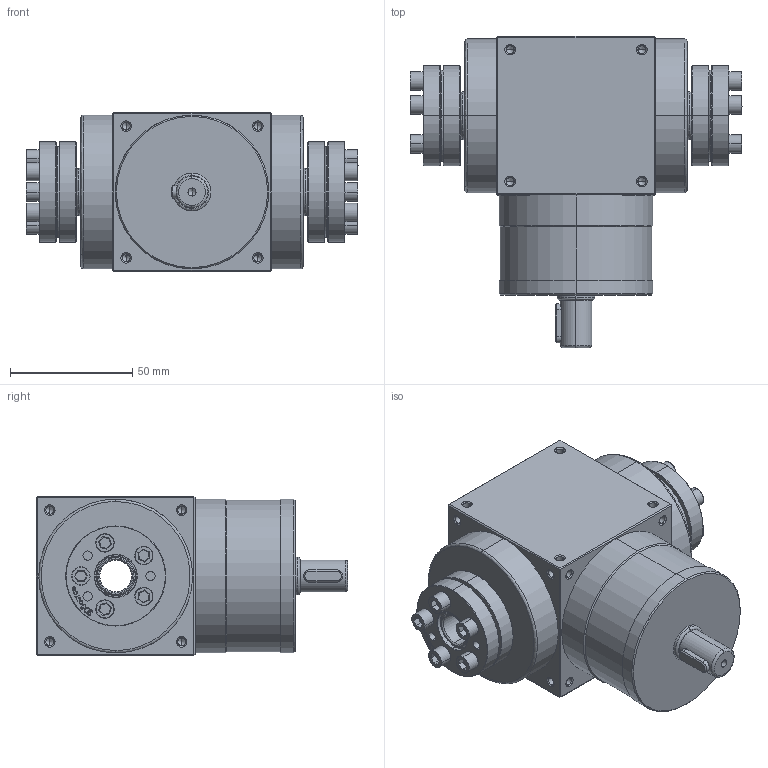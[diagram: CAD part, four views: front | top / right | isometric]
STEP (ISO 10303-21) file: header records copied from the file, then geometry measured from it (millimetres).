
FILE_DESCRIPTION (( 'STEP AP214' ), '1' );
FILE_NAME ('AT065-C-001.STEP', '2021-04-24T07:04:49', ( 'Microsoft' ), ( 'Microsoft China' ), 'SwSTEP 2.0', 'SolidWorks 2016', '' );
FILE_SCHEMA (( 'AUTOMOTIVE_DESIGN' ));
Length unit declared in the file: millimetre
Products named in the file (3): AT065-C-001; 83_16x41
Assembly tree (3 placements, depth 2):
  AT065-C-001
    AT065-C-001
    83_16x41  x2
Bounding box: 136 x 127.5 x 65 mm (x, y, z)
Volume: 505836.6 mm3; surface area: 70593.6 mm2
Topology: 19 solids, 19 shells, 979 faces, 2364 edges, 1415 vertices
Faces by surface type: cylinder 418, plane 241, cone 228, bspline 52, torus 40
Entity records: 19038 total; most frequent: CARTESIAN_POINT 4641, ORIENTED_EDGE 3008, DIRECTION 2996, EDGE_CURVE 1504, AXIS2_PLACEMENT_3D 1154, VERTEX_POINT 913, EDGE_LOOP 725, VECTOR 688
